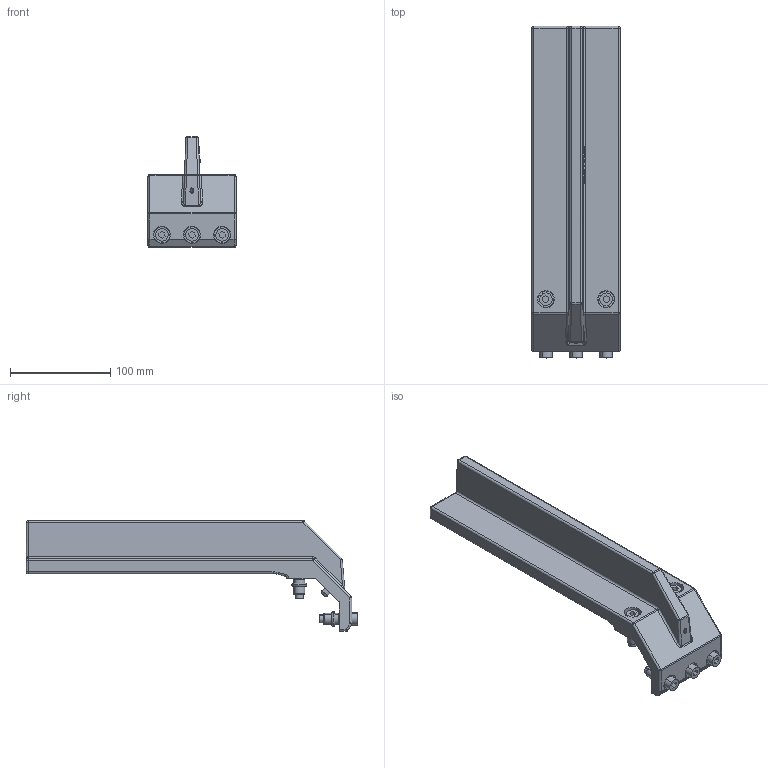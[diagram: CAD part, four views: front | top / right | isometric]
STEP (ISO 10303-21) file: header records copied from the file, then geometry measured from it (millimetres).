
FILE_DESCRIPTION(('CATIA V5 STEP Exchange'),'2;1');
FILE_NAME('C:\Users\User\Desktop\stp\EGT230.stp','2017-07-21T01:37:34+00:00',('none'),('none'),'CATIA Version 5 Release 21 GA (IN-10)','CATIA V5 STEP AP203','none');
FILE_SCHEMA(('CONFIG_CONTROL_DESIGN'));
Length unit declared in the file: millimetre
Products named in the file (1): EGT230
Bounding box: 88 x 331 x 110.5 mm (x, y, z)
Volume: 642018.8 mm3; surface area: 116293.6 mm2
Topology: 29 solids, 29 shells, 1296 faces, 3522 edges, 2286 vertices
Faces by surface type: plane 965, cylinder 145, extrusion 100, cone 32, sphere 24, torus 24, bspline 6
Entity records: 41806 total; most frequent: CARTESIAN_POINT 9871, ORIENTED_EDGE 6992, DIRECTION 5677, EDGE_CURVE 3496, VECTOR 3002, LINE 2902, VERTEX_POINT 2286, AXIS2_PLACEMENT_3D 1505
